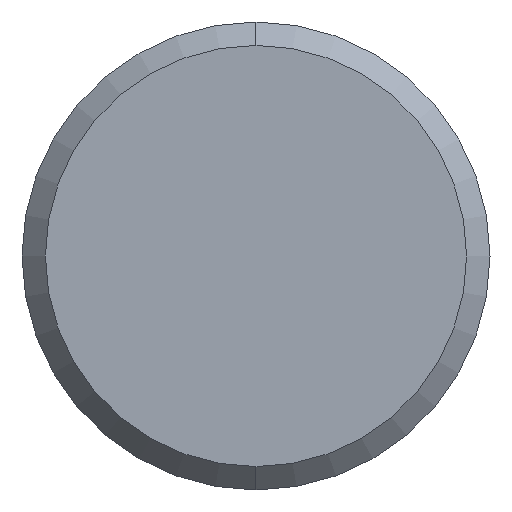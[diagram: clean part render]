
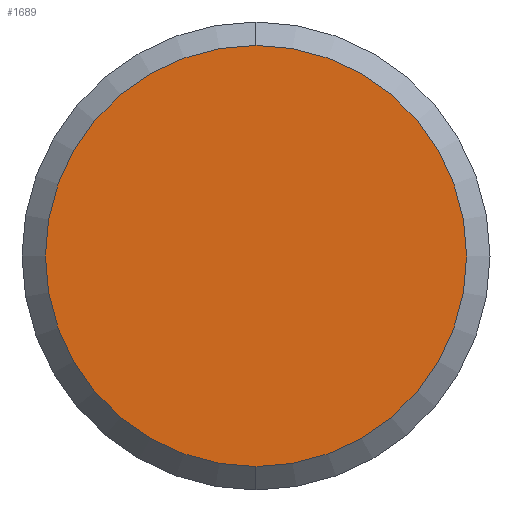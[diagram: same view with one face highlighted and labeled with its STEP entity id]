
A CAD part, left-side view. The second image highlights one B-rep face of the part: STEP entity #1689.
In plain terms, the highlighted planar face has unit normal (-1, 0, 0).
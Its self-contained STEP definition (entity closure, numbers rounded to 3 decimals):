
#1621=CARTESIAN_POINT('Vertex',(0.,0.,-18.)) ;
#1624=CARTESIAN_POINT('Axis2P3D Location',(0.,0.,0.)) ;
#1628=CARTESIAN_POINT('Vertex',(0.,18.,0.)) ;
#1631=CARTESIAN_POINT('Axis2P3D Location',(0.,0.,0.)) ;
#1635=CARTESIAN_POINT('Vertex',(0.,0.,18.)) ;
#1657=CARTESIAN_POINT('Axis2P3D Location',(0.,0.,0.)) ;
#1661=CARTESIAN_POINT('Vertex',(0.,-18.,0.)) ;
#1664=CARTESIAN_POINT('Axis2P3D Location',(0.,0.,0.)) ;
#1678=CARTESIAN_POINT('Axis2P3D Location',(0.,0.,0.)) ;
#1625=DIRECTION('Axis2P3D Direction',(1.,0.,-0.)) ;
#1632=DIRECTION('Axis2P3D Direction',(1.,0.,-0.)) ;
#1658=DIRECTION('Axis2P3D Direction',(1.,0.,-0.)) ;
#1665=DIRECTION('Axis2P3D Direction',(1.,0.,-0.)) ;
#1679=DIRECTION('Axis2P3D Direction',(1.,0.,-0.)) ;
#1680=DIRECTION('Axis2P3D XDirection',(-0.,0.,-1.)) ;
#1626=AXIS2_PLACEMENT_3D('Circle Axis2P3D',#1624,#1625,$) ;
#1633=AXIS2_PLACEMENT_3D('Circle Axis2P3D',#1631,#1632,$) ;
#1659=AXIS2_PLACEMENT_3D('Circle Axis2P3D',#1657,#1658,$) ;
#1666=AXIS2_PLACEMENT_3D('Circle Axis2P3D',#1664,#1665,$) ;
#1681=AXIS2_PLACEMENT_3D('Plane Axis2P3D',#1678,#1679,#1680) ;
#1684=ORIENTED_EDGE('',*,*,#1630,.F.) ;
#1685=ORIENTED_EDGE('',*,*,#1668,.F.) ;
#1686=ORIENTED_EDGE('',*,*,#1663,.F.) ;
#1687=ORIENTED_EDGE('',*,*,#1637,.F.) ;
#1689=ADVANCED_FACE('395A-032-175',(#1688),#1682,.F.) ;
#1627=CIRCLE('generated circle',#1626,18.) ;
#1634=CIRCLE('generated circle',#1633,18.) ;
#1660=CIRCLE('generated circle',#1659,18.) ;
#1667=CIRCLE('generated circle',#1666,18.) ;
#1630=EDGE_CURVE('',#1622,#1629,#1627,.T.) ;
#1637=EDGE_CURVE('',#1629,#1636,#1634,.T.) ;
#1663=EDGE_CURVE('',#1636,#1662,#1660,.T.) ;
#1668=EDGE_CURVE('',#1662,#1622,#1667,.T.) ;
#1683=EDGE_LOOP('',(#1684,#1685,#1686,#1687)) ;
#1688=FACE_OUTER_BOUND('',#1683,.T.) ;
#1682=PLANE('Plane',#1681) ;
#1622=VERTEX_POINT('',#1621) ;
#1629=VERTEX_POINT('',#1628) ;
#1636=VERTEX_POINT('',#1635) ;
#1662=VERTEX_POINT('',#1661) ;
